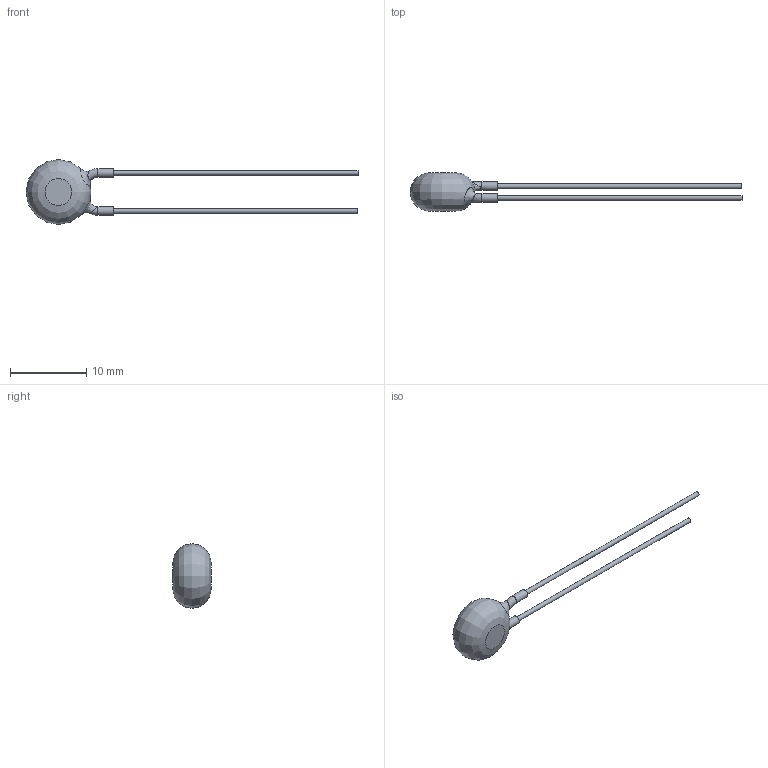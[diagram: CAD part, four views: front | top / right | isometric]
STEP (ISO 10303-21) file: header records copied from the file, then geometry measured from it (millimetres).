
FILE_DESCRIPTION((''),'2;1');
FILE_NAME('I:\Marketing\M6t1\3D-Models\Zchng-Werk-3\Upload for homepage\BCC\AY2\Y5U-5mm\AY2152K31Y5US63L5\AY2152K31Y5US63L5.stp','2015-09-09T08:30:37',(''),(''),'Autodesk Inventor 2013','Autodesk Inventor 2013','');
FILE_SCHEMA(('AUTOMOTIVE_DESIGN { 1 0 10303 214 1 1 1 1 }'));
Length unit declared in the file: centimetre
Products named in the file (1): AY2152K31Y5US63L5
Bounding box: 43.5 x 5 x 8.5 mm (x, y, z)
Volume: 247.5 mm3; surface area: 330 mm2
Topology: 1 solids, 1 shells, 15 faces, 27 edges, 18 vertices
Faces by surface type: plane 6, cylinder 4, bspline 3, torus 2
Full cylindrical faces by diameter (mm): 0.6 x2, 1.1 x2
Entity records: 715 total; most frequent: CARTESIAN_POINT 422, DIRECTION 50, ORIENTED_EDGE 32, EDGE_LOOP 26, AXIS2_PLACEMENT_3D 25, EDGE_CURVE 16, STYLED_ITEM 16, FACE_OUTER_BOUND 15
